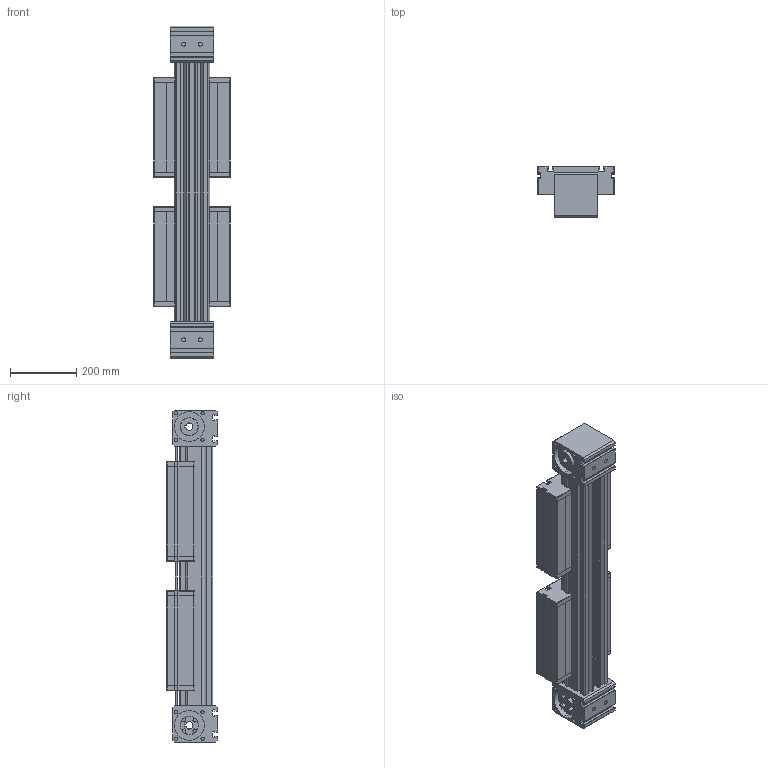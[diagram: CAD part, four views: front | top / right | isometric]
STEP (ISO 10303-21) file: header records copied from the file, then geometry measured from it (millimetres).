
FILE_DESCRIPTION (( 'STEP AP214' ), '1' );
FILE_NAME ('ELZZ100.STEP', '2022-07-19T13:14:36', ( '' ), ( '' ), 'SwSTEP 2.0', 'SolidWorks 2020', '' );
FILE_SCHEMA (( 'AUTOMOTIVE_DESIGN' ));
Length unit declared in the file: millimetre
Products named in the file (4): timing belt reverse unit^ELZZ100_coupling claw pos.1; ELZZ100; profile^ELZZ100_2x guide rods; carriage ^ELZZ100_carriage version 0
Assembly tree (5 placements, depth 2):
  ELZZ100
    profile^ELZZ100_2x guide rods
    carriage ^ELZZ100_carriage version 0  x2
    timing belt reverse unit^ELZZ100_coupling claw pos.1  x2
Bounding box: 230 x 154 x 1000 mm (x, y, z)
Volume: 17816408.4 mm3; surface area: 1583682.4 mm2
Topology: 13 solids, 13 shells, 756 faces, 2070 edges, 1368 vertices
Faces by surface type: plane 508, cylinder 228, torus 16, cone 4
Entity records: 15025 total; most frequent: CARTESIAN_POINT 2354, ORIENTED_EDGE 2250, DIRECTION 2213, EDGE_CURVE 1125, VECTOR 863, LINE 863, VERTEX_POINT 744, AXIS2_PLACEMENT_3D 675
